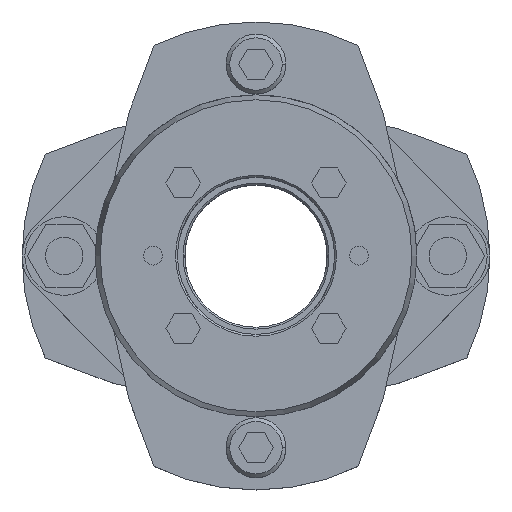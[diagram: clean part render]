
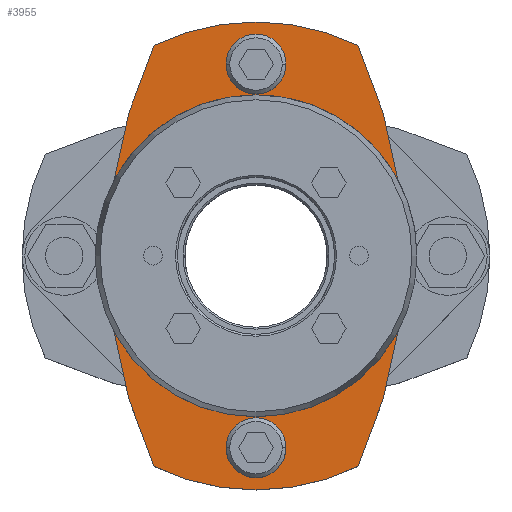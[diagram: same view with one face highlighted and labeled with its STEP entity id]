
A CAD part, top view. The second image highlights one B-rep face of the part: STEP entity #3955.
In plain terms, the highlighted planar face has unit normal (0, 0, 1).
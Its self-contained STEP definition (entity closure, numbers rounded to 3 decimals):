
#1387=CARTESIAN_POINT('',(-39.5,0.,19.0));
#1388=VERTEX_POINT('',#1387);
#1404=CARTESIAN_POINT('',(-27.217,-56.263,19.0));
#1405=VERTEX_POINT('',#1404);
#1412=CARTESIAN_POINT('',(95.5,0.,19.0));
#1413=DIRECTION('',(0.0,0.0,-1.0));
#1414=DIRECTION('',(-1.0,0.0,0.0));
#1415=AXIS2_PLACEMENT_3D('',#1412,#1413,#1414);
#1416=CIRCLE('',#1415,135.);
#1417=EDGE_CURVE('',#1405,#1388,#1416,.T.);
#1427=CARTESIAN_POINT('',(39.5,0.,19.0));
#1428=VERTEX_POINT('',#1427);
#1437=CARTESIAN_POINT('',(27.217,-56.263,19.0));
#1438=VERTEX_POINT('',#1437);
#1439=CARTESIAN_POINT('',(-95.5,0.,19.0));
#1440=DIRECTION('',(0.0,0.0,-1.0));
#1441=DIRECTION('',(-1.0,0.0,0.0));
#1442=AXIS2_PLACEMENT_3D('',#1439,#1440,#1441);
#1443=CIRCLE('',#1442,135.);
#1444=EDGE_CURVE('',#1428,#1438,#1443,.T.);
#1693=CARTESIAN_POINT('',(-32.5,0.,19.0));
#1694=VERTEX_POINT('',#1693);
#1744=CARTESIAN_POINT('',(32.5,0.,19.0));
#1745=VERTEX_POINT('',#1744);
#1752=CARTESIAN_POINT('',(0.,0.,19.0));
#1753=DIRECTION('',(0.0,0.0,-1.0));
#1754=DIRECTION('',(-1.0,0.0,0.0));
#1755=AXIS2_PLACEMENT_3D('',#1752,#1753,#1754);
#1756=CIRCLE('',#1755,32.5);
#1757=EDGE_CURVE('',#1694,#1745,#1756,.T.);
#1853=CARTESIAN_POINT('',(-8.,-51.25,19.0));
#1854=VERTEX_POINT('',#1853);
#1870=CARTESIAN_POINT('',(8.,-51.25,19.0));
#1871=VERTEX_POINT('',#1870);
#1878=CARTESIAN_POINT('',(0.,-51.25,19.0));
#1879=DIRECTION('',(0.0,0.0,-1.0));
#1880=DIRECTION('',(-1.0,0.0,0.0));
#1881=AXIS2_PLACEMENT_3D('',#1878,#1879,#1880);
#1882=CIRCLE('',#1881,8.0);
#1883=EDGE_CURVE('',#1854,#1871,#1882,.T.);
#1927=CARTESIAN_POINT('',(-8.,51.25,19.0));
#1928=VERTEX_POINT('',#1927);
#1944=CARTESIAN_POINT('',(8.,51.25,19.0));
#1945=VERTEX_POINT('',#1944);
#1952=CARTESIAN_POINT('',(0.,51.25,19.0));
#1953=DIRECTION('',(0.0,0.0,-1.0));
#1954=DIRECTION('',(-1.0,0.0,0.0));
#1955=AXIS2_PLACEMENT_3D('',#1952,#1953,#1954);
#1956=CIRCLE('',#1955,8.0);
#1957=EDGE_CURVE('',#1928,#1945,#1956,.T.);
#2496=CARTESIAN_POINT('',(0.,51.25,19.0));
#2497=DIRECTION('',(0.0,0.0,-1.0));
#2498=DIRECTION('',(-1.0,0.0,0.0));
#2499=AXIS2_PLACEMENT_3D('',#2496,#2497,#2498);
#2500=CIRCLE('',#2499,8.0);
#2501=EDGE_CURVE('',#1945,#1928,#2500,.T.);
#2556=CARTESIAN_POINT('',(0.,-51.25,19.0));
#2557=DIRECTION('',(0.0,0.0,-1.0));
#2558=DIRECTION('',(-1.0,0.0,0.0));
#2559=AXIS2_PLACEMENT_3D('',#2556,#2557,#2558);
#2560=CIRCLE('',#2559,8.0);
#2561=EDGE_CURVE('',#1871,#1854,#2560,.T.);
#3628=CARTESIAN_POINT('',(0.,0.,19.0));
#3629=DIRECTION('',(0.0,0.0,-1.0));
#3630=DIRECTION('',(-1.0,0.0,0.0));
#3631=AXIS2_PLACEMENT_3D('',#3628,#3629,#3630);
#3632=CIRCLE('',#3631,32.5);
#3633=EDGE_CURVE('',#1745,#1694,#3632,.T.);
#3849=CARTESIAN_POINT('',(-27.217,56.263,19.0));
#3850=VERTEX_POINT('',#3849);
#3851=CARTESIAN_POINT('',(27.217,56.263,19.0));
#3852=VERTEX_POINT('',#3851);
#3853=CARTESIAN_POINT('',(0.,0.0,19.0));
#3854=DIRECTION('',(0.0,0.0,-1.0));
#3855=DIRECTION('',(-1.0,0.0,0.0));
#3856=AXIS2_PLACEMENT_3D('',#3853,#3854,#3855);
#3857=CIRCLE('',#3856,62.5);
#3858=EDGE_CURVE('',#3850,#3852,#3857,.T.);
#3884=CARTESIAN_POINT('',(-95.5,0.,19.0));
#3885=DIRECTION('',(0.0,0.0,-1.0));
#3886=DIRECTION('',(-1.0,0.0,0.0));
#3887=AXIS2_PLACEMENT_3D('',#3884,#3885,#3886);
#3888=CIRCLE('',#3887,135.);
#3889=EDGE_CURVE('',#3852,#1428,#3888,.T.);
#3899=CARTESIAN_POINT('',(0.,0.,19.0));
#3900=DIRECTION('',(0.0,0.0,-1.0));
#3901=DIRECTION('',(-1.0,0.0,0.0));
#3902=AXIS2_PLACEMENT_3D('',#3899,#3900,#3901);
#3903=CIRCLE('',#3902,62.5);
#3904=EDGE_CURVE('',#1438,#1405,#3903,.T.);
#3918=CARTESIAN_POINT('',(95.5,0.,19.0));
#3919=DIRECTION('',(0.0,0.0,-1.0));
#3920=DIRECTION('',(-1.0,0.0,0.0));
#3921=AXIS2_PLACEMENT_3D('',#3918,#3919,#3920);
#3922=CIRCLE('',#3921,135.);
#3923=EDGE_CURVE('',#1388,#3850,#3922,.T.);
#3930=CARTESIAN_POINT('',(0.,0.,19.0));
#3931=DIRECTION('',(0.0,0.0,1.0));
#3932=DIRECTION('',(-1.0,0.0,0.0));
#3933=AXIS2_PLACEMENT_3D('',#3930,#3931,#3932);
#3934=PLANE('',#3933);
#3935=ORIENTED_EDGE('',*,*,#3858,.F.);
#3936=ORIENTED_EDGE('',*,*,#3923,.F.);
#3937=ORIENTED_EDGE('',*,*,#1417,.F.);
#3938=ORIENTED_EDGE('',*,*,#3904,.F.);
#3939=ORIENTED_EDGE('',*,*,#1444,.F.);
#3940=ORIENTED_EDGE('',*,*,#3889,.F.);
#3941=EDGE_LOOP('',(#3935,#3936,#3937,#3938,#3939,#3940));
#3942=FACE_OUTER_BOUND('',#3941,.T.);
#3943=ORIENTED_EDGE('',*,*,#1957,.T.);
#3944=ORIENTED_EDGE('',*,*,#2501,.T.);
#3945=EDGE_LOOP('',(#3943,#3944));
#3946=FACE_BOUND('',#3945,.T.);
#3947=ORIENTED_EDGE('',*,*,#1883,.T.);
#3948=ORIENTED_EDGE('',*,*,#2561,.T.);
#3949=EDGE_LOOP('',(#3947,#3948));
#3950=FACE_BOUND('',#3949,.T.);
#3951=ORIENTED_EDGE('',*,*,#1757,.T.);
#3952=ORIENTED_EDGE('',*,*,#3633,.T.);
#3953=EDGE_LOOP('',(#3951,#3952));
#3954=FACE_BOUND('',#3953,.T.);
#3955=ADVANCED_FACE('',(#3942,#3946,#3950,#3954),#3934,.T.);
